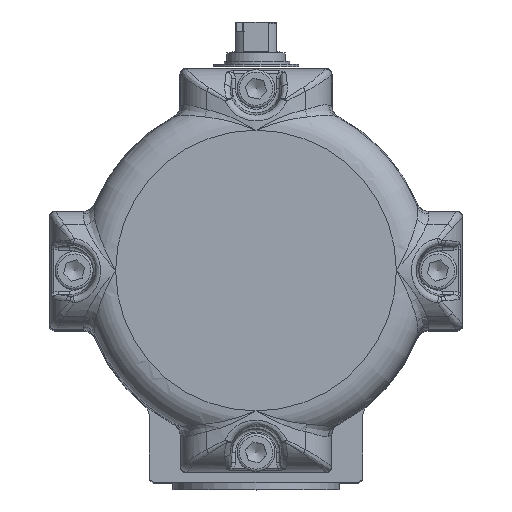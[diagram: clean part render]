
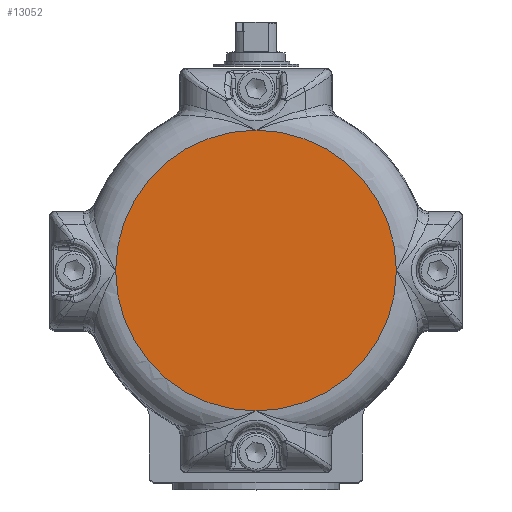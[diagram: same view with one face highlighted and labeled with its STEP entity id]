
A CAD part, top view. The second image highlights one B-rep face of the part: STEP entity #13052.
In plain terms, the highlighted planar face has unit normal (0, 0, 1).
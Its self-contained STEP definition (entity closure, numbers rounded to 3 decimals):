
#9317=CARTESIAN_POINT('',(0.,-59.05,144.2));
#9318=VERTEX_POINT('',#9317);
#9319=CARTESIAN_POINT('',(59.05,0.,144.2));
#9320=VERTEX_POINT('',#9319);
#9321=CARTESIAN_POINT('',(0.,0.,144.2));
#9322=DIRECTION('',(0.0,0.0,1.0));
#9323=DIRECTION('',(1.0,0.0,0.0));
#9324=AXIS2_PLACEMENT_3D('',#9321,#9322,#9323);
#9325=CIRCLE('',#9324,59.05);
#9326=EDGE_CURVE('',#9318,#9320,#9325,.T.);
#9448=CARTESIAN_POINT('',(-59.05,0.,144.2));
#9449=VERTEX_POINT('',#9448);
#9450=CARTESIAN_POINT('',(0.,0.,144.2));
#9451=DIRECTION('',(0.0,0.0,1.0));
#9452=DIRECTION('',(1.0,0.0,0.0));
#9453=AXIS2_PLACEMENT_3D('',#9450,#9451,#9452);
#9454=CIRCLE('',#9453,59.05);
#9455=EDGE_CURVE('',#9449,#9318,#9454,.T.);
#12225=CARTESIAN_POINT('',(0.,59.05,144.2));
#12226=VERTEX_POINT('',#12225);
#12967=CARTESIAN_POINT('',(0.,0.,144.2));
#12968=DIRECTION('',(0.0,0.0,1.0));
#12969=DIRECTION('',(1.0,0.0,0.0));
#12970=AXIS2_PLACEMENT_3D('',#12967,#12968,#12969);
#12971=CIRCLE('',#12970,59.05);
#12972=EDGE_CURVE('',#9320,#12226,#12971,.T.);
#13035=CARTESIAN_POINT('',(29.525,0.,144.2));
#13036=DIRECTION('',(0.0,0.0,1.0));
#13037=DIRECTION('',(0.0,1.0,0.0));
#13038=AXIS2_PLACEMENT_3D('',#13035,#13036,#13037);
#13039=PLANE('',#13038);
#13040=ORIENTED_EDGE('',*,*,#9455,.T.);
#13041=ORIENTED_EDGE('',*,*,#9326,.T.);
#13042=ORIENTED_EDGE('',*,*,#12972,.T.);
#13043=CARTESIAN_POINT('',(0.,0.,144.2));
#13044=DIRECTION('',(0.0,0.0,1.0));
#13045=DIRECTION('',(1.0,0.0,0.0));
#13046=AXIS2_PLACEMENT_3D('',#13043,#13044,#13045);
#13047=CIRCLE('',#13046,59.05);
#13048=EDGE_CURVE('',#12226,#9449,#13047,.T.);
#13049=ORIENTED_EDGE('',*,*,#13048,.T.);
#13050=EDGE_LOOP('',(#13040,#13041,#13042,#13049));
#13051=FACE_OUTER_BOUND('',#13050,.T.);
#13052=ADVANCED_FACE('',(#13051),#13039,.T.);
